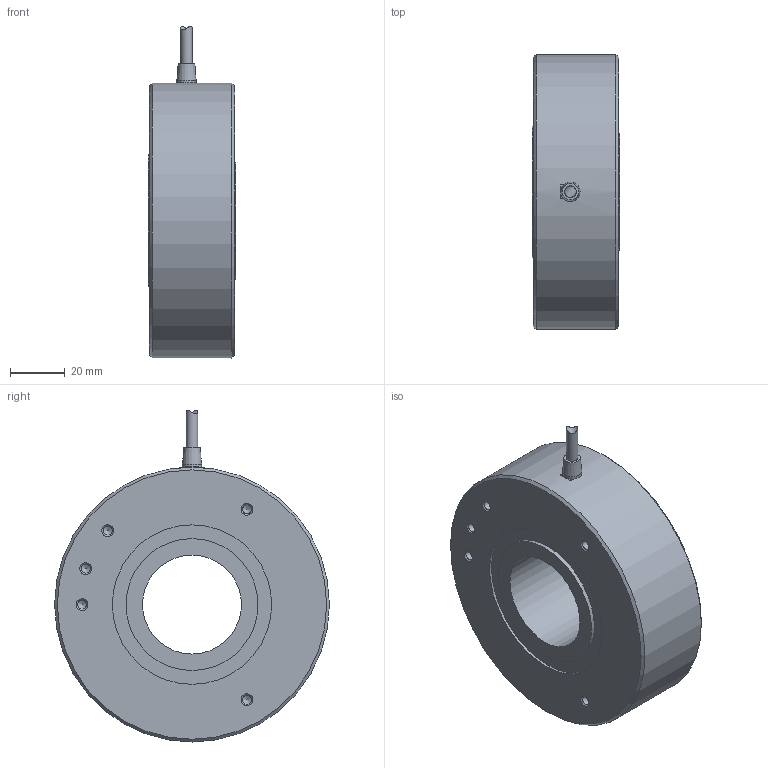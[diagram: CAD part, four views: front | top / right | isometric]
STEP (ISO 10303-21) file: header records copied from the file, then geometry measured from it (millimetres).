
FILE_DESCRIPTION(('STEP AP242'),'1');
FILE_NAME('PST).stp','2025-06-09T01:28:44',(' '),(' '),'Spatial InterOp 3D',' ',' ');
FILE_SCHEMA(('AP242_MANAGED_MODEL_BASED_3D_ENGINEERING_MIM_LF {1 0 10303 442 1 1 4}'));
Length unit declared in the file: millimetre
Products named in the file (1): L07H01 MEH-85P(1500P以上及びPST)
Bounding box: 32 x 100 x 120.79 mm (x, y, z)
Volume: 211020.4 mm3; surface area: 28486 mm2
Topology: 1 solids, 3 shells, 62 faces, 128 edges, 79 vertices
Faces by surface type: cylinder 24, plane 18, cone 17, torus 3
Full cylindrical faces by diameter (mm): 1.6 x4, 3.3 x10, 4.2 x1, 7 x1, 36 x1, 42.6 x1, 48 x1, 53 x1, 58 x1, 100 x1
Entity records: 1946 total; most frequent: CARTESIAN_POINT 293, DIRECTION 250, ORIENTED_EDGE 140, AXIS2_PLACEMENT_3D 119, EDGE_LOOP 113, FACE_OUTER_BOUND 87, EDGE_CURVE 70, VERTEX_POINT 68
